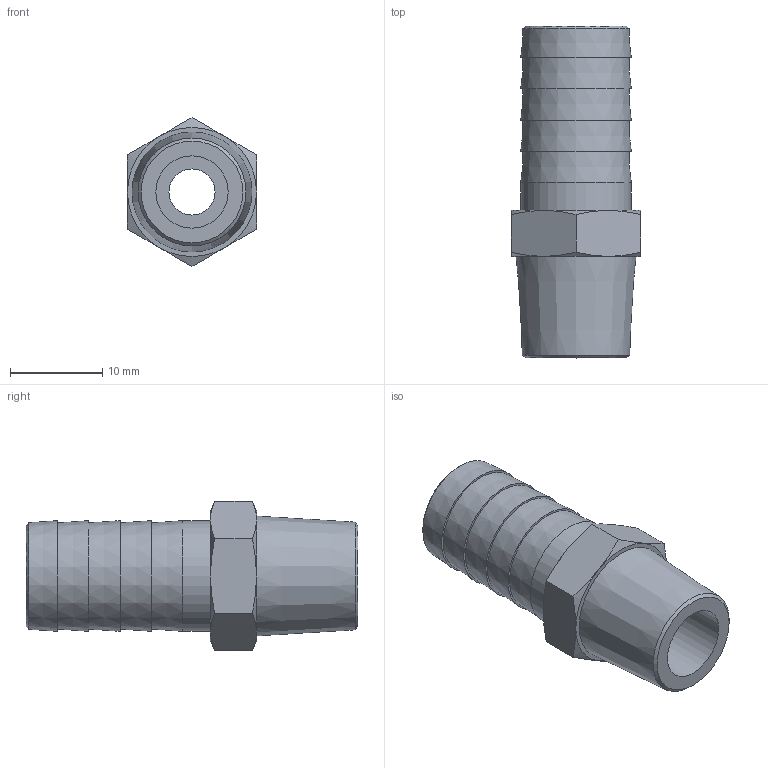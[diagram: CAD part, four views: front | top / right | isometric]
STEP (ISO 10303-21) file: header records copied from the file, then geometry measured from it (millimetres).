
FILE_DESCRIPTION(/* description */ (''),/* implementation_level */ '2;1');
FILE_NAME(/* name */ 'BXH09 12B2 00.stp',/* time_stamp */ '2026-06-22T11:15:45+02:00',/* author */ ('freju'),/* organization */ (''),/* preprocessor_version */ 'ST-DEVELOPER v20.1',/* originating_system */ 'Autodesk Inventor 2026',/* authorisation */ '');
FILE_SCHEMA (('AUTOMOTIVE_DESIGN { 1 0 10303 214 3 1 1 }'));
Length unit declared in the file: millimetre
Products named in the file (1): BXH09 12B2 00
Bounding box: 14 x 36 x 16.17 mm (x, y, z)
Volume: 3288.9 mm3; surface area: 2360.7 mm2
Topology: 1 solids, 1 shells, 38 faces, 75 edges, 46 vertices
Faces by surface type: cone 20, plane 15, cylinder 3
Full cylindrical faces by diameter (mm): 5 x1, 7.85 x1, 12 x1
Entity records: 1000 total; most frequent: CARTESIAN_POINT 208, DIRECTION 163, ORIENTED_EDGE 150, EDGE_CURVE 75, AXIS2_PLACEMENT_3D 73, EDGE_LOOP 47, VERTEX_POINT 46, FACE_OUTER_BOUND 38
